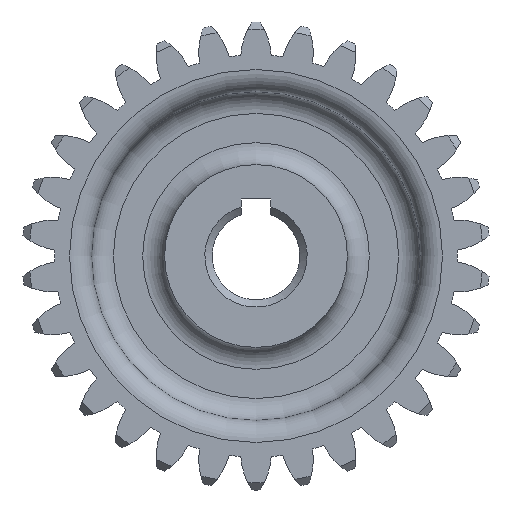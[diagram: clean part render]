
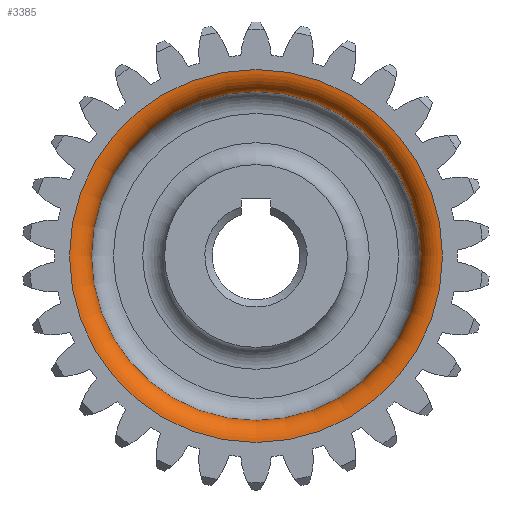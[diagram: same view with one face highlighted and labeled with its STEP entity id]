
A CAD part, left-side view. The second image highlights one B-rep face of the part: STEP entity #3385.
In plain terms, the highlighted toroidal (fillet/blend) face has major radius 25.5 mm and minor radius 3 mm.
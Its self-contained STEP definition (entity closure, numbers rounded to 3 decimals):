
#139=FACE_BOUND('',#742,.T.);
#145=TOROIDAL_SURFACE('',#3590,25.5,3.);
#543=FACE_OUTER_BOUND('',#741,.T.);
#741=EDGE_LOOP('',(#2213));
#742=EDGE_LOOP('',(#2214));
#939=CIRCLE('',#3589,22.5);
#940=CIRCLE('',#3591,25.5);
#1259=VERTEX_POINT('',#5265);
#1260=VERTEX_POINT('',#5268);
#1640=EDGE_CURVE('',#1259,#1259,#939,.T.);
#1641=EDGE_CURVE('',#1260,#1260,#940,.T.);
#2213=ORIENTED_EDGE('',*,*,#1640,.T.);
#2214=ORIENTED_EDGE('',*,*,#1641,.T.);
#3385=ADVANCED_FACE('',(#543,#139),#145,.T.);
#3589=AXIS2_PLACEMENT_3D('',#5266,#4116,#4117);
#3590=AXIS2_PLACEMENT_3D('',#5267,#4118,#4119);
#3591=AXIS2_PLACEMENT_3D('',#5269,#4120,#4121);
#4116=DIRECTION('center_axis',(1.,0.,0.));
#4117=DIRECTION('ref_axis',(0.,-1.,0.));
#4118=DIRECTION('center_axis',(1.,0.,0.));
#4119=DIRECTION('ref_axis',(0.,0.,-1.));
#4120=DIRECTION('center_axis',(-1.,0.,0.));
#4121=DIRECTION('ref_axis',(0.,-1.,0.));
#5265=CARTESIAN_POINT('',(3.,22.5,0.));
#5266=CARTESIAN_POINT('Origin',(3.,0.,0.));
#5267=CARTESIAN_POINT('Origin',(3.,0.,0.));
#5268=CARTESIAN_POINT('',(0.,25.5,0.));
#5269=CARTESIAN_POINT('Origin',(0.,0.,0.));
